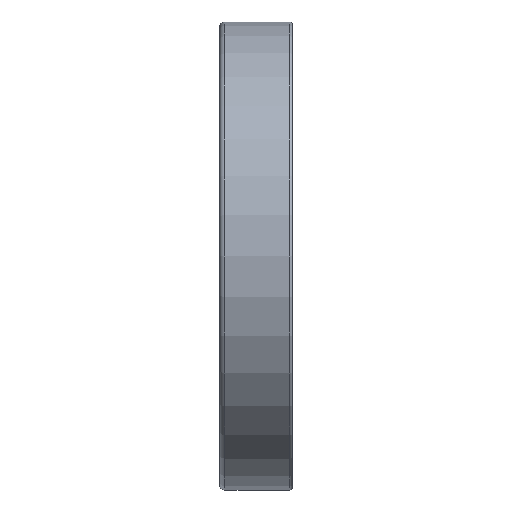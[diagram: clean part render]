
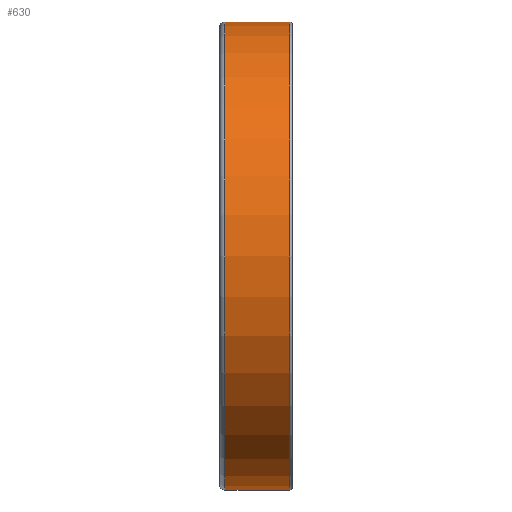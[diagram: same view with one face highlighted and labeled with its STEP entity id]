
A CAD part, front view. The second image highlights one B-rep face of the part: STEP entity #630.
In plain terms, the highlighted cylindrical face has radius 90 mm (diameter 180 mm), a full revolution.
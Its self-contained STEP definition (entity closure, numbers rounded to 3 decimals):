
#182=CYLINDRICAL_SURFACE('',#1002,90.);
#302=EDGE_LOOP('',(#434));
#303=EDGE_LOOP('',(#435));
#434=ORIENTED_EDGE('',*,*,#508,.F.);
#435=ORIENTED_EDGE('',*,*,#506,.T.);
#506=EDGE_CURVE('',#919,#919,#526,.T.);
#508=EDGE_CURVE('',#921,#921,#528,.T.);
#526=CIRCLE('',#998,90.);
#528=CIRCLE('',#1001,90.);
#630=ADVANCED_FACE('',(#801,#802),#182,.T.);
#801=FACE_BOUND('',#302,.T.);
#802=FACE_BOUND('',#303,.T.);
#919=VERTEX_POINT('',#2154);
#921=VERTEX_POINT('',#2159);
#998=AXIS2_PLACEMENT_3D('',#2153,#1141,#1142);
#1001=AXIS2_PLACEMENT_3D('',#2158,#1147,#1148);
#1002=AXIS2_PLACEMENT_3D('',#2160,#1149,#1150);
#1141=DIRECTION('',(1.,0.,0.));
#1142=DIRECTION('',(0.,0.,-1.));
#1147=DIRECTION('',(1.,0.,0.));
#1148=DIRECTION('',(0.,0.,-1.));
#1149=DIRECTION('',(1.,0.,0.));
#1150=DIRECTION('',(0.,0.,-1.));
#2153=CARTESIAN_POINT('',(-12.,0.,0.));
#2154=CARTESIAN_POINT('',(-12.,0.,-90.));
#2158=CARTESIAN_POINT('',(13.,0.,0.));
#2159=CARTESIAN_POINT('',(13.,0.,-90.));
#2160=CARTESIAN_POINT('',(-12.,0.,0.));
